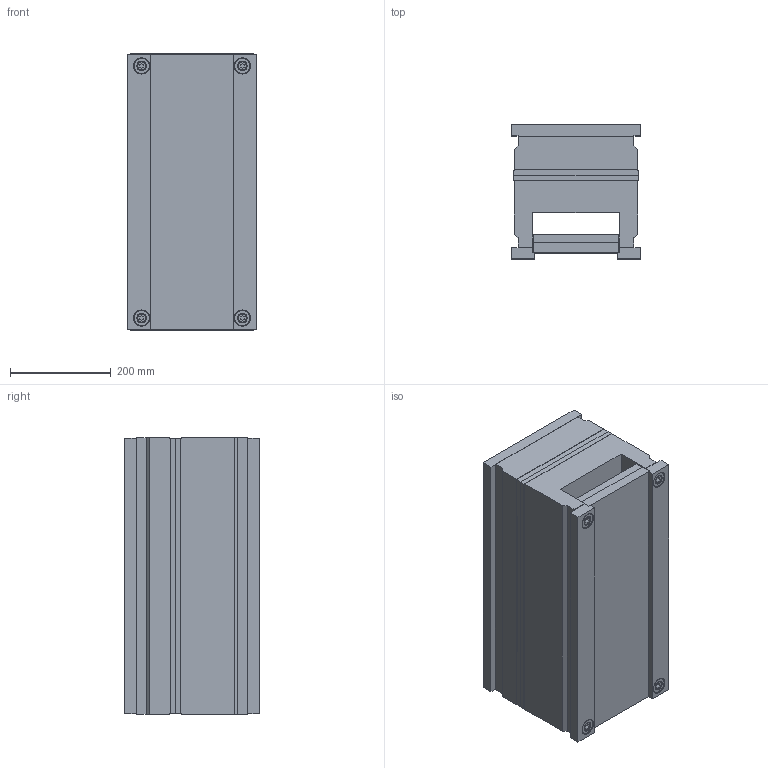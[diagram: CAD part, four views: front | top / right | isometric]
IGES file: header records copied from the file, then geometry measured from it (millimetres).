
Start section: SolidWorks IGES FILE using analytic representation for surfaces
Global section: file name: C:\Documents and Settings\K.P\My Documents\Mechanical\ALMO\CATL_EUR\RECT\2467.IGS; native system: SolidWorks 2001Plus by SolidWorks Corporation; preprocessor: Version 5.3; author: Pavel; date: 020709.092514; units: millimetre
Bounding box: 255 x 266 x 548 mm (x, y, z)
Surface area: 1684341.6 mm2 (no closed solid volume)
Topology: 0 solids, 0 shells, 706 faces, 11944 edges, 11936 vertices
Faces by surface type: revolution 452, bspline 254
